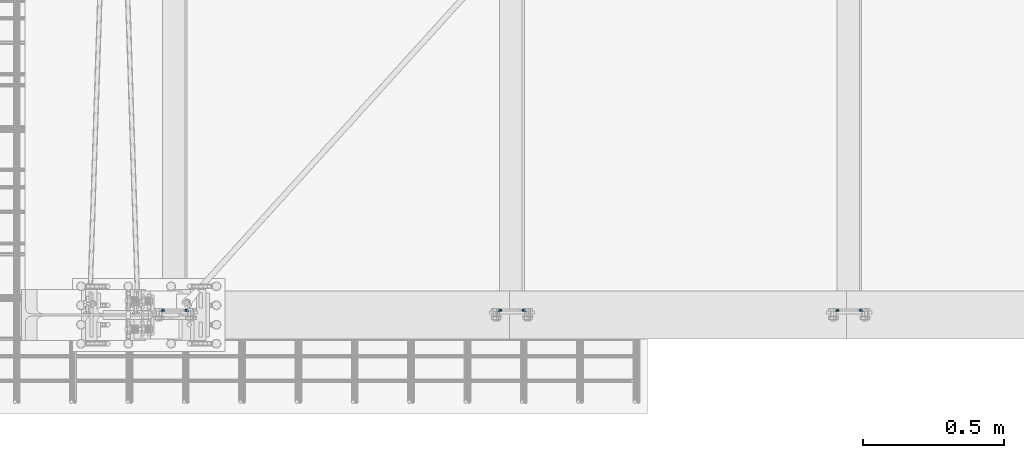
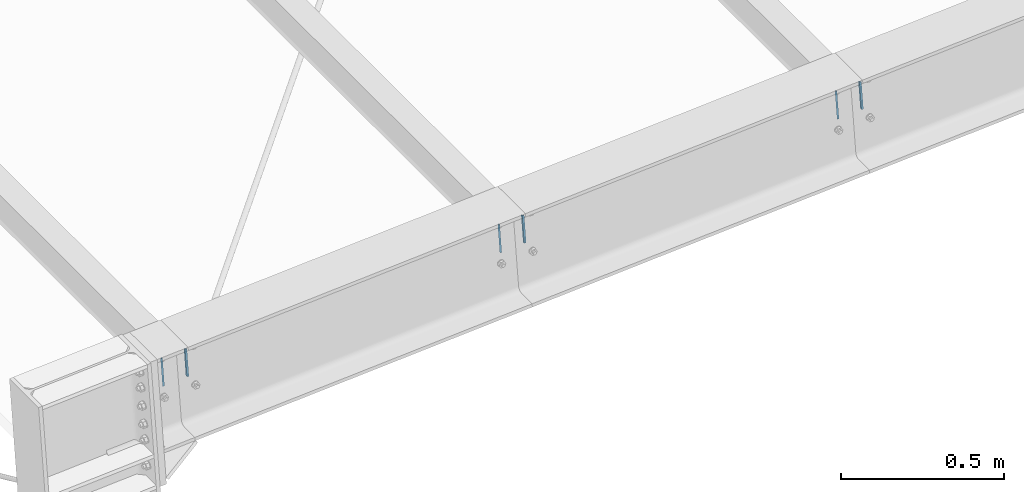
# One storey, part 11 of 72: 12 fasteners.
"""IFC4 building model written with IfcOpenShell, lengths in metres."""

from ifc_helpers import new_model, si_unit, frame, origin_with_axes, place, context, project, spatial, polyline, outline, extrude, type_object, element, save


model = new_model("IFC4")

# Units and contexts
model_context = context("Model", 3, precision=1e-05, world=origin_with_axes())
ifc_project = project(units=[si_unit("LENGTHUNIT", "METRE"), si_unit("AREAUNIT", "SQUARE_METRE"), si_unit("VOLUMEUNIT", "CUBIC_METRE"), si_unit("MASSUNIT", "GRAM", prefix="KILO"), si_unit("TIMEUNIT", "SECOND"), si_unit("PLANEANGLEUNIT", "RADIAN"), si_unit("SOLIDANGLEUNIT", "STERADIAN"), si_unit("THERMODYNAMICTEMPERATUREUNIT", "DEGREE_CELSIUS")], contexts=[model_context])

# Site, building, storey
placement_1 = place(None, origin_with_axes())
site = spatial("IfcSite", under=ifc_project, at=placement_1, Name="Italia", CompositionType="ELEMENT")
building = spatial("IfcBuilding", under=site, at=placement_1, Name="Pensilina", CompositionType="ELEMENT")
storey = spatial("IfcBuildingStorey", under=building, at=placement_1, Name="Storey 0", CompositionType="ELEMENT", Elevation=0.0)

# Fasteners
fastener_type_1 = type_object("IfcFastenerType", Name="Collegamento 0201_0202", PredefinedType="WELD")
placement_2 = place(placement_1, origin_with_axes())
fastener_1_placement = place(placement_2, origin_with_axes())
element("IfcFastener", 1, at=fastener_1_placement, inside=storey, type_object=fastener_type_1, Name="Collegamento 0201_0202", context=model_context, shape_type="SweptSolid", body=[
    extrude(outline(polyline([(0.0, 0.0, 0.0), (-0.00717336, 0.00695825, 0.0), (0.0, 0.00695825, 0.0), (0.0, 0.0, 0.0)])), frame((0.977819, 0.01395, 3.64049), z_axis=(-0.067317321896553, 0.0, 0.997731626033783), x_axis=(0.0, -1.0, 0.0)), (0.0, 0.0, 1.0), 0.1061),
])
fastener_type_2 = type_object("IfcFastenerType", Name="Collegamento 0201_0202", PredefinedType="WELD")
fastener_2_placement = place(placement_2, origin_with_axes())
element("IfcFastener", 2, at=fastener_2_placement, inside=storey, type_object=fastener_type_2, Name="Collegamento 0201_0202", context=model_context, shape_type="SweptSolid", body=[
    extrude(outline(polyline([(0.0, 0.0, 0.0), (0.00717336, -0.00695825, 0.0), (0.0, -0.00695825, 0.0), (0.0, 0.0, 0.0)])), frame((1.06428, 0.01395, 3.75267), z_axis=(0.067317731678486, 0.0, -0.997731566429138), x_axis=(0.0, 1.0, 0.0)), (0.0, 0.0, 1.0), 0.1061),
])
fastener_type_3 = type_object("IfcFastenerType", Name="Collegamento 0201_0202", PredefinedType="WELD")
fastener_3_placement = place(placement_2, origin_with_axes())
element("IfcFastener", 3, at=fastener_3_placement, inside=storey, type_object=fastener_type_3, Name="Collegamento 0201_0202", context=model_context, shape_type="SweptSolid", body=[
    extrude(outline(polyline([(0.0, 0.0, 0.0), (-0.00717336, 0.00695825, 0.0), (0.0, 0.00695825, 0.0), (0.0, 0.0, 0.0)])), frame((0.977819, 0.01395, 3.64049), z_axis=(-0.067317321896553, 0.0, 0.997731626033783), x_axis=(0.0, -1.0, 0.0)), (0.0, 0.0, 1.0), 0.1061),
])
fastener_type_4 = type_object("IfcFastenerType", Name="Collegamento 0201_0202", PredefinedType="WELD")
fastener_4_placement = place(placement_2, origin_with_axes())
element("IfcFastener", 4, at=fastener_4_placement, inside=storey, type_object=fastener_type_4, Name="Collegamento 0201_0202", context=model_context, shape_type="SweptSolid", body=[
    extrude(outline(polyline([(0.0, 0.0, 0.0), (0.00717336, -0.00695825, 0.0), (0.0, -0.00695825, 0.0), (0.0, 0.0, 0.0)])), frame((1.06428, 0.01395, 3.75267), z_axis=(0.067317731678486, 0.0, -0.997731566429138), x_axis=(0.0, 1.0, 0.0)), (0.0, 0.0, 1.0), 0.1061),
])
fastener_type_5 = type_object("IfcFastenerType", Name="Collegamento 0301_0302", PredefinedType="WELD")
fastener_5_placement = place(placement_2, origin_with_axes())
element("IfcFastener", 5, at=fastener_5_placement, inside=storey, type_object=fastener_type_5, Name="Collegamento 0301_0302", context=model_context, shape_type="SweptSolid", body=[
    extrude(outline(polyline([(0.0, 0.0, 0.0), (-0.00717336, 0.00695825, 0.0), (0.0, 0.00695825, 0.0), (0.0, 0.0, 0.0)])), frame((2.17504, 0.01395, 3.72274), z_axis=(-0.067318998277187, 0.0, 0.997731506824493), x_axis=(0.0, -1.0, 0.0)), (0.0, 0.0, 1.0), 0.1061),
])
fastener_type_6 = type_object("IfcFastenerType", Name="Collegamento 0301_0302", PredefinedType="WELD")
fastener_6_placement = place(placement_2, origin_with_axes())
element("IfcFastener", 6, at=fastener_6_placement, inside=storey, type_object=fastener_type_6, Name="Collegamento 0301_0302", context=model_context, shape_type="SweptSolid", body=[
    extrude(outline(polyline([(0.0, 0.0, 0.0), (0.00717336, -0.00695825, 0.0), (0.0, -0.00695825, 0.0), (0.0, 0.0, 0.0)])), frame((2.2615, 0.01395, 3.83492), z_axis=(0.067318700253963, 0.0, -0.997731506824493), x_axis=(0.0, 1.0, 0.0)), (0.0, 0.0, 1.0), 0.1061),
])
fastener_type_7 = type_object("IfcFastenerType", Name="Collegamento 0301_0302", PredefinedType="WELD")
fastener_7_placement = place(placement_2, origin_with_axes())
element("IfcFastener", 7, at=fastener_7_placement, inside=storey, type_object=fastener_type_7, Name="Collegamento 0301_0302", context=model_context, shape_type="SweptSolid", body=[
    extrude(outline(polyline([(0.0, 0.0, 0.0), (-0.00717336, 0.00695825, 0.0), (0.0, 0.00695825, 0.0), (0.0, 0.0, 0.0)])), frame((2.17504, 0.01395, 3.72274), z_axis=(-0.067318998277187, 0.0, 0.997731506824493), x_axis=(0.0, -1.0, 0.0)), (0.0, 0.0, 1.0), 0.1061),
])
fastener_type_8 = type_object("IfcFastenerType", Name="Collegamento 0301_0302", PredefinedType="WELD")
fastener_8_placement = place(placement_2, origin_with_axes())
element("IfcFastener", 8, at=fastener_8_placement, inside=storey, type_object=fastener_type_8, Name="Collegamento 0301_0302", context=model_context, shape_type="SweptSolid", body=[
    extrude(outline(polyline([(0.0, 0.0, 0.0), (0.00717336, -0.00695825, 0.0), (0.0, -0.00695825, 0.0), (0.0, 0.0, 0.0)])), frame((2.2615, 0.01395, 3.83492), z_axis=(0.067318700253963, 0.0, -0.997731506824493), x_axis=(0.0, 1.0, 0.0)), (0.0, 0.0, 1.0), 0.1061),
])
fastener_type_9 = type_object("IfcFastenerType", Name="Collegamento 0401_0402", PredefinedType="WELD")
fastener_9_placement = place(placement_2, origin_with_axes())
element("IfcFastener", 9, at=fastener_9_placement, inside=storey, type_object=fastener_type_9, Name="Collegamento 0401_0402", context=model_context, shape_type="SweptSolid", body=[
    extrude(outline(polyline([(0.0, 0.0, 0.0), (-0.00717336, 0.00695825, 0.0), (0.0, 0.00695825, 0.0), (0.0, 0.0, 0.0)])), frame((3.37217, 0.01395, 3.80499), z_axis=(-0.067318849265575, 0.0, 0.997731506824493), x_axis=(0.0, -1.0, 0.0)), (0.0, 0.0, 1.0), 0.1061),
])
fastener_type_10 = type_object("IfcFastenerType", Name="Collegamento 0401_0402", PredefinedType="WELD")
fastener_10_placement = place(placement_2, origin_with_axes())
element("IfcFastener", 10, at=fastener_10_placement, inside=storey, type_object=fastener_type_10, Name="Collegamento 0401_0402", context=model_context, shape_type="SweptSolid", body=[
    extrude(outline(polyline([(0.0, 0.0, 0.0), (0.00717336, -0.00695825, 0.0), (0.0, -0.00695825, 0.0), (0.0, 0.0, 0.0)])), frame((3.45863, 0.01395, 3.91716), z_axis=(0.067318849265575, 0.0, -0.997731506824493), x_axis=(0.0, 1.0, 0.0)), (0.0, 0.0, 1.0), 0.1061),
])
fastener_type_11 = type_object("IfcFastenerType", Name="Collegamento 0401_0402", PredefinedType="WELD")
fastener_11_placement = place(placement_2, origin_with_axes())
element("IfcFastener", 11, at=fastener_11_placement, inside=storey, type_object=fastener_type_11, Name="Collegamento 0401_0402", context=model_context, shape_type="SweptSolid", body=[
    extrude(outline(polyline([(0.0, 0.0, 0.0), (-0.00717336, 0.00695825, 0.0), (0.0, 0.00695825, 0.0), (0.0, 0.0, 0.0)])), frame((3.37217, 0.01395, 3.80499), z_axis=(-0.067318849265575, 0.0, 0.997731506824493), x_axis=(0.0, -1.0, 0.0)), (0.0, 0.0, 1.0), 0.1061),
])
fastener_type_12 = type_object("IfcFastenerType", Name="Collegamento 0401_0402", PredefinedType="WELD")
fastener_12_placement = place(placement_2, origin_with_axes())
element("IfcFastener", 12, at=fastener_12_placement, inside=storey, type_object=fastener_type_12, Name="Collegamento 0401_0402", context=model_context, shape_type="SweptSolid", body=[
    extrude(outline(polyline([(0.0, 0.0, 0.0), (0.00717336, -0.00695825, 0.0), (0.0, -0.00695825, 0.0), (0.0, 0.0, 0.0)])), frame((3.45863, 0.01395, 3.91716), z_axis=(0.067318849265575, 0.0, -0.997731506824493), x_axis=(0.0, 1.0, 0.0)), (0.0, 0.0, 1.0), 0.1061),
])

save(model, "model.ifc")
